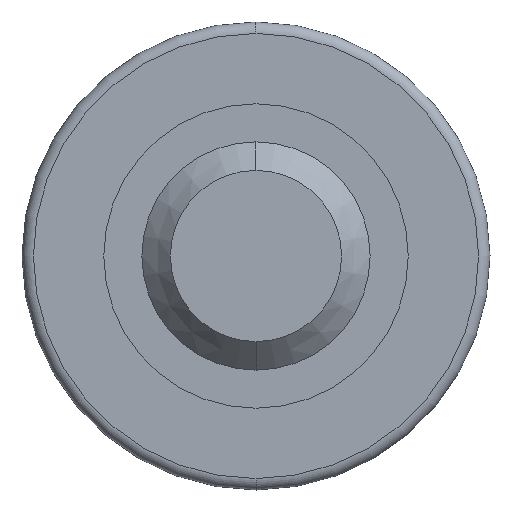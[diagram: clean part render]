
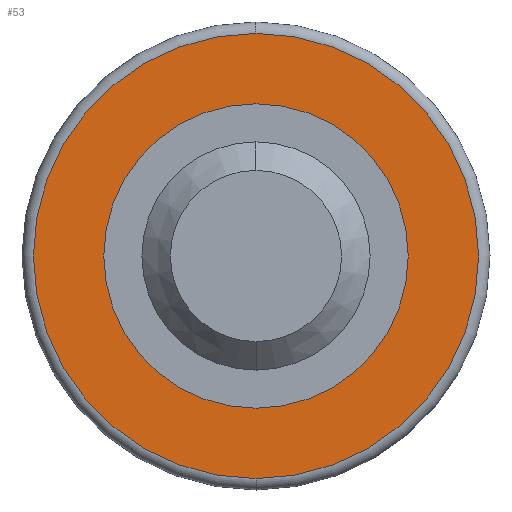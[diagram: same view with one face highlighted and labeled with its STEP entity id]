
A CAD part, left-side view. The second image highlights one B-rep face of the part: STEP entity #53.
In plain terms, the highlighted planar face has unit normal (-1, 0, 0).
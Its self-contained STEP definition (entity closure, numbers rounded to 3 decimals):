
#6 = VERTEX_POINT ( 'NONE', #87 ) ;
#29 = EDGE_LOOP ( 'NONE', ( #673, #638 ) ) ;
#53 = ADVANCED_FACE ( 'NONE', ( #470, #471 ), #472, .T. ) ;
#55 = CIRCLE ( 'NONE', #56, 40. ) ;
#56 = AXIS2_PLACEMENT_3D ( 'NONE', #57, #58, #59 ) ;
#57 = CARTESIAN_POINT ( 'NONE',  ( 30.3, 0., 0. ) ) ;
#58 = DIRECTION ( 'NONE',  ( 1., 0., 0. ) ) ;
#59 = DIRECTION ( 'NONE',  ( 0., 0., -1. ) ) ;
#87 = CARTESIAN_POINT ( 'NONE',  ( 30.3, 0., 40. ) ) ;
#125 = VERTEX_POINT ( 'NONE', #513 ) ;
#161 = CARTESIAN_POINT ( 'NONE',  ( 30.3, 0., -58.5 ) ) ;
#162 = CIRCLE ( 'NONE', #163, 58.5 ) ;
#163 = AXIS2_PLACEMENT_3D ( 'NONE', #164, #165, #166 ) ;
#164 = CARTESIAN_POINT ( 'NONE',  ( 30.3, 0., 0. ) ) ;
#165 = DIRECTION ( 'NONE',  ( 1., 0., 0. ) ) ;
#166 = DIRECTION ( 'NONE',  ( 0., 0., -1. ) ) ;
#176 = EDGE_LOOP ( 'NONE', ( #733, #705 ) ) ;
#266 = CARTESIAN_POINT ( 'NONE',  ( 30.3, 0., -40. ) ) ;
#271 = CIRCLE ( 'NONE', #272, 40. ) ;
#272 = AXIS2_PLACEMENT_3D ( 'NONE', #273, #274, #275 ) ;
#273 = CARTESIAN_POINT ( 'NONE',  ( 30.3, 0., 0. ) ) ;
#274 = DIRECTION ( 'NONE',  ( 1., 0., 0. ) ) ;
#275 = DIRECTION ( 'NONE',  ( 0., 0., -1. ) ) ;
#391 = VERTEX_POINT ( 'NONE', #266 ) ;
#394 = EDGE_CURVE ( 'NONE', #6, #391, #271, .T. ) ;
#470 = FACE_BOUND ( 'NONE', #29, .T. ) ;
#471 = FACE_OUTER_BOUND ( 'NONE', #176, .T. ) ;
#472 = PLANE ( 'NONE',  #473 ) ;
#473 = AXIS2_PLACEMENT_3D ( 'NONE', #474, #475, #476 ) ;
#474 = CARTESIAN_POINT ( 'NONE',  ( 30.3, 40., 0. ) ) ;
#475 = DIRECTION ( 'NONE',  ( -1., 0., 0. ) ) ;
#476 = DIRECTION ( 'NONE',  ( 0., 0., 1. ) ) ;
#507 = CIRCLE ( 'NONE', #508, 58.5 ) ;
#508 = AXIS2_PLACEMENT_3D ( 'NONE', #509, #510, #511 ) ;
#509 = CARTESIAN_POINT ( 'NONE',  ( 30.3, 0., 0. ) ) ;
#510 = DIRECTION ( 'NONE',  ( 1., 0., 0. ) ) ;
#511 = DIRECTION ( 'NONE',  ( 0., 0., -1. ) ) ;
#513 = CARTESIAN_POINT ( 'NONE',  ( 30.3, 0., 58.5 ) ) ;
#564 = EDGE_CURVE ( 'NONE', #391, #6, #55, .T. ) ;
#638 = ORIENTED_EDGE ( 'NONE', *, *, #394, .T. ) ;
#647 = VERTEX_POINT ( 'NONE', #161 ) ;
#673 = ORIENTED_EDGE ( 'NONE', *, *, #564, .T. ) ;
#688 = EDGE_CURVE ( 'NONE', #125, #647, #507, .T. ) ;
#705 = ORIENTED_EDGE ( 'NONE', *, *, #688, .F. ) ;
#731 = EDGE_CURVE ( 'NONE', #647, #125, #162, .T. ) ;
#733 = ORIENTED_EDGE ( 'NONE', *, *, #731, .F. ) ;
